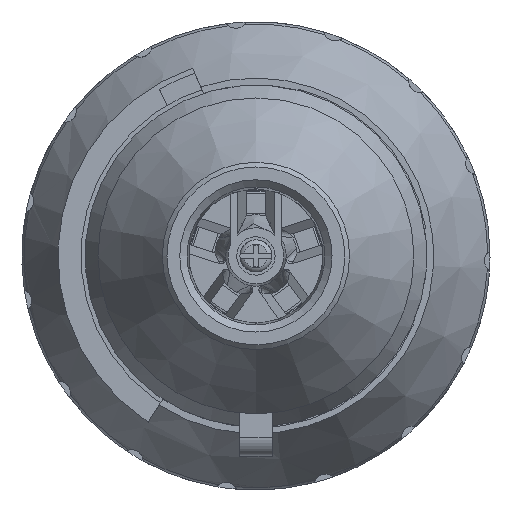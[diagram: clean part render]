
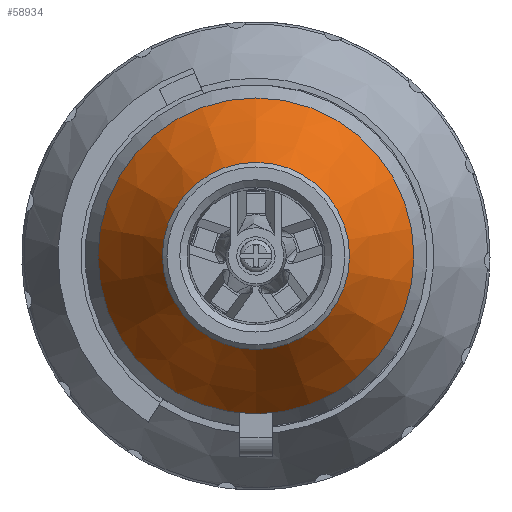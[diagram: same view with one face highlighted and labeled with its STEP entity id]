
A CAD part, left-side view. The second image highlights one B-rep face of the part: STEP entity #58934.
In plain terms, the highlighted conical face has half-angle 32.905 degrees and reference radius 26.875 mm.
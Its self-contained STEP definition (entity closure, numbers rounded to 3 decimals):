
#58880=CARTESIAN_POINT('',(-189.943,0.,33.75));
#58881=VERTEX_POINT('',#58880);
#58882=CARTESIAN_POINT('',(-189.943,0.,0.));
#58883=DIRECTION('',(-1.0,0.0,0.0));
#58884=DIRECTION('',(0.0,0.0,1.0));
#58885=AXIS2_PLACEMENT_3D('',#58882,#58883,#58884);
#58886=CIRCLE('',#58885,33.75);
#58887=EDGE_CURVE('',#58881,#58881,#58886,.T.);
#58915=CARTESIAN_POINT('',(-200.568,0.,0.));
#58916=DIRECTION('',(1.0,0.,0.));
#58917=DIRECTION('',(0.0,0.0,1.0));
#58918=AXIS2_PLACEMENT_3D('',#58915,#58916,#58917);
#58919=CONICAL_SURFACE('',#58918,26.875,32.905);
#58920=CARTESIAN_POINT('',(-211.193,0.,20.));
#58921=VERTEX_POINT('',#58920);
#58922=CARTESIAN_POINT('',(-211.193,0.,0.));
#58923=DIRECTION('',(-1.0,0.0,0.0));
#58924=DIRECTION('',(0.0,1.0,0.0));
#58925=AXIS2_PLACEMENT_3D('',#58922,#58923,#58924);
#58926=CIRCLE('',#58925,20.0);
#58927=EDGE_CURVE('',#58921,#58921,#58926,.T.);
#58928=ORIENTED_EDGE('',*,*,#58927,.F.);
#58929=EDGE_LOOP('',(#58928));
#58930=FACE_OUTER_BOUND('',#58929,.T.);
#58931=ORIENTED_EDGE('',*,*,#58887,.T.);
#58932=EDGE_LOOP('',(#58931));
#58933=FACE_BOUND('',#58932,.T.);
#58934=ADVANCED_FACE('',(#58930,#58933),#58919,.T.);
